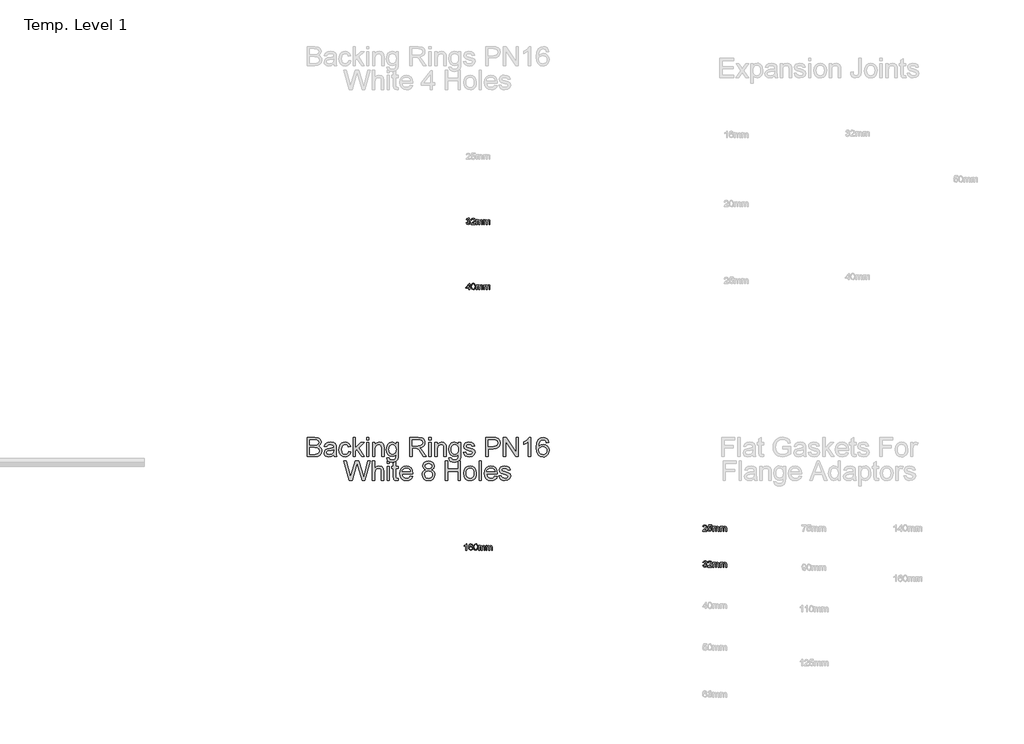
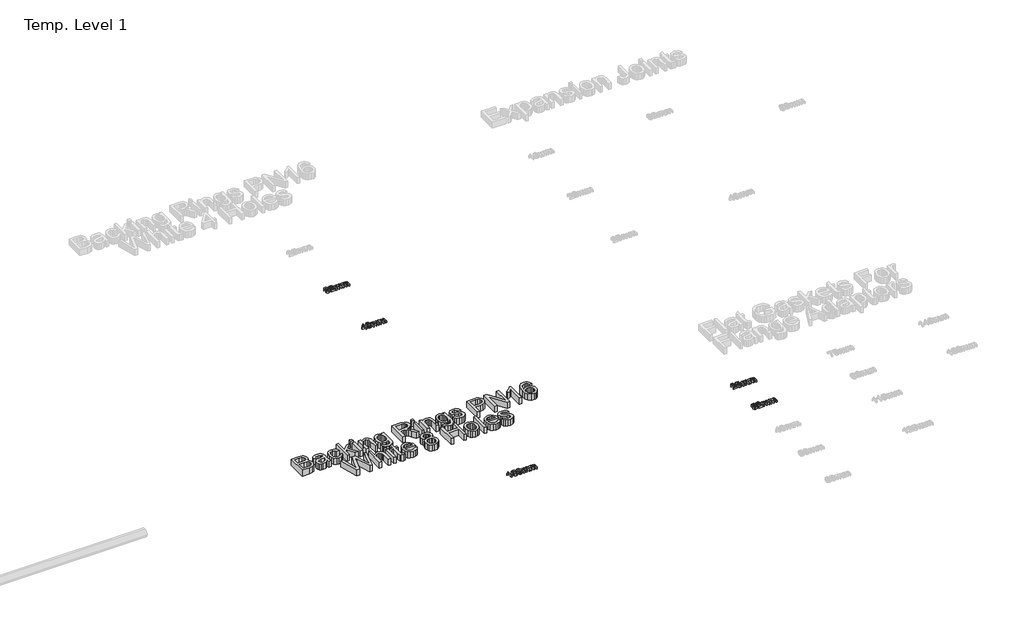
# One storey, part 9 of 62: 6 proxies.
"""IFC4 building model written with IfcOpenShell, lengths in millimetres."""

from ifc_helpers import new_model, si_unit, origin, origin_with_axes, place, context, project, spatial, polyline, outline, extrude, element, save

model = new_model("IFC4")

# Units and contexts
model_context = context("Model", 3, world=origin())
ifc_project = project(units=[si_unit("LENGTHUNIT", "METRE", prefix="MILLI")], contexts=[model_context])

# Site, building, storey
site = spatial("IfcSite", under=ifc_project)
building = spatial("IfcBuilding", under=site)
storey = spatial("IfcBuildingStorey", under=building, Name="Temp. Level 1", Elevation=0.0)

# Proxies
placement = place(None, origin())
element("IfcBuildingElementProxy", 1, Name="150mm Arial", ObjectType="150mm Arial", at=placement, inside=storey, context=model_context, shape_type="SweptSolid", body=[
    extrude(outline(polyline([(8496.1176365, -6979.0446709), (8496.1176365, -6831.3523632), (8552.4758096, -6831.3523632), (8580.0779731, -6835.6973151), (8589.3538144, -6841.2096348), (8596.37605, -6849.0566901), (8602.2714827, -6867.9509209), (8597.31355, -6885.2045266), (8582.3315788, -6898.2754401), (8592.7928168, -6903.7381805), (8600.5226846, -6912.0494786), (8605.2958216, -6922.6594545), (8606.8868673, -6935.0182286), (8602.5419154, -6954.8679882), (8591.7786942, -6969.0026036), (8575.7149923, -6976.5026036), (8552.0431173, -6979.0446709), (8496.1176365, -6979.0446709)]), holes=[polyline([(8514.579175, -6960.5831324), (8552.4397519, -6960.5831324), (8566.141675, -6959.8619786), (8577.7342231, -6955.8415459), (8585.4145115, -6947.6384209), (8588.4253288, -6935.198517), (8584.891675, -6920.8475555), (8573.4433577, -6912.2838536), (8550.6368673, -6909.8139016), (8514.579175, -6909.8139016), (8514.579175, -6960.5831324)]), polyline([(8514.579175, -6891.3523632), (8548.2931173, -6891.3523632), (8567.9806173, -6889.7658247), (8579.8255692, -6882.932892), (8583.8099442, -6870.9076516), (8580.0960019, -6858.8643824), (8569.4589827, -6851.7429882), (8545.7330212, -6849.8139016), (8514.579175, -6849.8139016), (8514.579175, -6891.3523632)])]), origin_with_axes(), (0.0, 0.0, 1.0), 50.0),
    extrude(outline(polyline([(8699.1945596, -6965.198517), (8681.2919154, -6977.7105362), (8661.5142712, -6981.3523632), (8646.0860861, -6979.1618584), (8634.7053769, -6972.5903439), (8627.6876486, -6962.6113776), (8625.3484058, -6950.198517), (8628.8820596, -6935.5951516), (8638.1669154, -6924.9941901), (8651.0935981, -6918.9364978), (8667.0671558, -6916.1600555), (8699.0863865, -6909.8139016), (8699.1945596, -6905.7033247), (8697.923526, -6897.464142), (8694.110425, -6892.073517), (8685.5827808, -6888.0711132), (8673.7017712, -6886.7369786), (8655.0238865, -6890.2886612), (8646.1176365, -6902.8908247), (8627.6560981, -6900.5831324), (8635.6428769, -6882.5542862), (8651.7246077, -6871.9893824), (8676.0815788, -6868.2754401), (8698.4553769, -6871.5566901), (8711.0935981, -6879.7958728), (8716.7546558, -6892.3259209), (8717.6560981, -6908.479767), (8717.6560981, -6931.448517), (8718.5935981, -6963.5218343), (8722.2714827, -6979.0446709), (8703.8099442, -6979.0446709), (8699.1945596, -6965.198517)]), holes=[polyline([(8699.1945596, -6928.2754401), (8669.4109058, -6933.9364978), (8653.5274923, -6936.9292862), (8646.3339827, -6941.7970747), (8643.8099442, -6948.9004401), (8649.3087423, -6958.8884209), (8665.4445596, -6962.8908247), (8684.1224442, -6958.4737574), (8696.1657135, -6947.7826516), (8699.0863865, -6933.5038055), (8699.1945596, -6928.2754401)])]), origin_with_axes(), (0.0, 0.0, 1.0), 50.0),
    extrude(outline(polyline([(8812.2714827, -6939.8139016), (8830.7330212, -6942.1215939), (8825.5857856, -6958.5413656), (8815.9133096, -6970.9497189), (8802.62605, -6978.7517021), (8786.6344635, -6981.3523632), (8766.9965428, -6977.7240579), (8751.6404731, -6966.839142), (8741.7291149, -6949.17538), (8738.4253288, -6925.2105362), (8744.0683577, -6894.5434689), (8751.1897519, -6883.0455723), (8761.2678769, -6874.8379401), (8773.3246678, -6869.9160651), (8786.3820596, -6868.2754401), (8801.9815188, -6870.5290459), (8814.4529731, -6877.2898632), (8823.399788, -6888.1973151), (8828.4253288, -6902.8908247), (8809.9637904, -6905.198517), (8801.4000885, -6891.370392), (8786.5262904, -6886.7369786), (8774.5957014, -6889.0176276), (8765.12605, -6895.8595747), (8758.946663, -6907.6324112), (8756.8868673, -6924.7057286), (8758.9015909, -6942.0089137), (8764.9457615, -6953.8223151), (8774.2441389, -6960.6236973), (8786.0214827, -6962.8908247), (8795.5812784, -6961.4755603), (8803.4193192, -6957.229767), (8809.1209418, -6950.0452718), (8812.2714827, -6939.8139016)])), origin_with_axes(), (0.0, 0.0, 1.0), 50.0),
    extrude(outline(polyline([(8846.8868673, -6979.0446709), (8846.8868673, -6831.3523632), (8865.3484058, -6831.3523632), (8865.3484058, -6910.7153439), (8906.7426365, -6870.5831324), (8932.2714827, -6870.5831324), (8890.3724442, -6911.2201516), (8934.579175, -6979.0446709), (8913.016675, -6979.0446709), (8877.1392712, -6924.0566901), (8865.3484058, -6935.4869786), (8865.3484058, -6979.0446709), (8846.8868673, -6979.0446709)])), origin_with_axes(), (0.0, 0.0, 1.0), 50.0),
    extrude(outline(polyline([(8950.7330212, -6979.0446709), (8950.7330212, -6870.5831324), (8969.1945596, -6870.5831324), (8969.1945596, -6979.0446709), (8950.7330212, -6979.0446709)])), origin_with_axes(), (0.0, 0.0, 1.0), 50.0),
    extrude(outline(polyline([(8950.7330212, -6849.8139016), (8950.7330212, -6831.3523632), (8969.1945596, -6831.3523632), (8969.1945596, -6849.8139016), (8950.7330212, -6849.8139016)])), origin_with_axes(), (0.0, 0.0, 1.0), 50.0),
    extrude(outline(polyline([(8996.8868673, -6979.0446709), (8996.8868673, -6870.5831324), (9015.3484058, -6870.5831324), (9015.3484058, -6885.7273632), (9029.4649923, -6872.6384209), (9048.7378288, -6868.2754401), (9066.1717231, -6871.7910651), (9078.0707615, -6881.0218343), (9083.6056173, -6894.5975555), (9084.579175, -6912.4461132), (9084.579175, -6979.0446709), (9066.1176365, -6979.0446709), (9066.1176365, -6914.9340939), (9063.9902327, -6898.5999593), (9056.4722038, -6889.964142), (9043.797925, -6886.7369786), (9032.9851245, -6888.5488776), (9023.7678769, -6893.9845747), (9017.4532736, -6904.4863776), (9015.3484058, -6921.4965939), (9015.3484058, -6979.0446709), (8996.8868673, -6979.0446709)])), origin_with_axes(), (0.0, 0.0, 1.0), 50.0),
    extrude(outline(polyline([(9105.3484058, -6988.2754401), (9123.8099442, -6990.5831324), (9129.7955212, -7000.3187093), (9147.7161942, -7004.4292862), (9166.610425, -6999.7778439), (9175.6248481, -6986.7249593), (9176.8868673, -6965.198517), (9163.8880692, -6975.5831324), (9148.0407135, -6979.0446709), (9129.0067591, -6975.0152237), (9114.81355, -6962.9268824), (9105.9839226, -6945.2045266), (9103.0407135, -6924.2730362), (9108.3231654, -6895.6612574), (9114.7865067, -6884.0461733), (9123.6116269, -6875.4148632), (9134.4965428, -6870.0602959), (9147.1392712, -6868.2754401), (9163.6086221, -6872.3139016), (9176.8868673, -6884.4292862), (9176.8868673, -6870.5831324), (9195.3484058, -6870.5831324), (9195.3484058, -6964.2249593), (9194.0863865, -6985.8460531), (9190.3003288, -7000.0843343), (9183.7783938, -7009.5269425), (9174.3087423, -7016.761017), (9162.0987063, -7021.3583728), (9147.3556173, -7022.8908247), (9130.1786341, -7020.7318704), (9116.6524923, -7014.2550074), (9107.9761101, -7003.4422069), (9105.3484058, -6988.2754401)]), holes=[polyline([(9121.5022519, -6923.011017), (9123.4719034, -6939.9446108), (9129.3808577, -6951.5867382), (9138.2645716, -6958.3340338), (9149.1585019, -6960.5831324), (9159.9713024, -6958.3475555), (9168.9000885, -6951.6408247), (9174.8901726, -6940.1474353), (9176.8868673, -6923.5518824), (9174.8315788, -6907.5467742), (9168.6657135, -6896.0218343), (9159.6062183, -6889.0581925), (9148.8700404, -6886.7369786), (9138.3276726, -6889.0221348), (9129.4890308, -6895.8776036), (9123.4989466, -6907.2312694), (9121.5022519, -6923.011017)])]), origin_with_axes(), (0.0, 0.0, 1.0), 50.0),
    extrude(outline(polyline([(9283.0407135, -6979.0446709), (9283.0407135, -6831.3523632), (9346.6825404, -6831.3523632), (9376.2318192, -6835.3367382), (9385.3273721, -6840.8535651), (9392.3856654, -6849.4352959), (9396.915413, -6860.0768223), (9398.4253288, -6871.7730362), (9395.9238264, -6886.3223151), (9388.4193192, -6898.3836132), (9375.6864466, -6907.2267622), (9357.4998481, -6912.1215939), (9367.9926365, -6920.0182286), (9382.9565788, -6939.0206324), (9407.5839827, -6979.0446709), (9386.1296558, -6979.0446709), (9366.9109058, -6948.4316901), (9353.0286942, -6928.167267), (9343.2750885, -6918.5939497), (9334.4950404, -6915.0783247), (9323.7859058, -6914.4292862), (9301.5022519, -6914.4292862), (9301.5022519, -6979.0446709), (9283.0407135, -6979.0446709)]), holes=[polyline([(9301.5022519, -6895.9677478), (9342.8243673, -6895.9677478), (9363.9000885, -6893.3535651), (9375.8712423, -6884.9881805), (9379.9637904, -6872.4581324), (9378.0121678, -6863.4527237), (9372.1573, -6856.1961132), (9362.0836822, -6851.4094545), (9347.4758096, -6849.8139016), (9301.5022519, -6849.8139016), (9301.5022519, -6895.9677478)])]), origin_with_axes(), (0.0, 0.0, 1.0), 50.0),
    extrude(outline(polyline([(9428.4253288, -6979.0446709), (9428.4253288, -6870.5831324), (9446.8868673, -6870.5831324), (9446.8868673, -6979.0446709), (9428.4253288, -6979.0446709)])), origin_with_axes(), (0.0, 0.0, 1.0), 50.0),
    extrude(outline(polyline([(9428.4253288, -6849.8139016), (9428.4253288, -6831.3523632), (9446.8868673, -6831.3523632), (9446.8868673, -6849.8139016), (9428.4253288, -6849.8139016)])), origin_with_axes(), (0.0, 0.0, 1.0), 50.0),
    extrude(outline(polyline([(9474.579175, -6979.0446709), (9474.579175, -6870.5831324), (9493.0407135, -6870.5831324), (9493.0407135, -6885.7273632), (9507.1573, -6872.6384209), (9526.4301365, -6868.2754401), (9543.8640308, -6871.7910651), (9555.7630692, -6881.0218343), (9561.297925, -6894.5975555), (9562.2714827, -6912.4461132), (9562.2714827, -6979.0446709), (9543.8099442, -6979.0446709), (9543.8099442, -6914.9340939), (9541.6825404, -6898.5999593), (9534.1645115, -6889.964142), (9521.4902327, -6886.7369786), (9510.6774322, -6888.5488776), (9501.4601846, -6893.9845747), (9495.1455813, -6904.4863776), (9493.0407135, -6921.4965939), (9493.0407135, -6979.0446709), (9474.579175, -6979.0446709)])), origin_with_axes(), (0.0, 0.0, 1.0), 50.0),
    extrude(outline(polyline([(9583.0407135, -6988.2754401), (9601.5022519, -6990.5831324), (9607.4878288, -7000.3187093), (9625.4085019, -7004.4292862), (9644.3027327, -6999.7778439), (9653.3171558, -6986.7249593), (9654.579175, -6965.198517), (9641.5803769, -6975.5831324), (9625.7330212, -6979.0446709), (9606.6990668, -6975.0152237), (9592.5058577, -6962.9268824), (9583.6762303, -6945.2045266), (9580.7330212, -6924.2730362), (9586.0154731, -6895.6612574), (9592.4788144, -6884.0461733), (9601.3039346, -6875.4148632), (9612.1888505, -6870.0602959), (9624.8315788, -6868.2754401), (9641.3009298, -6872.3139016), (9654.579175, -6884.4292862), (9654.579175, -6870.5831324), (9673.0407135, -6870.5831324), (9673.0407135, -6964.2249593), (9671.7786942, -6985.8460531), (9667.9926365, -7000.0843343), (9661.4707014, -7009.5269425), (9652.00105, -7016.761017), (9639.7910139, -7021.3583728), (9625.047925, -7022.8908247), (9607.8709418, -7020.7318704), (9594.3448, -7014.2550074), (9585.6684178, -7003.4422069), (9583.0407135, -6988.2754401)]), holes=[polyline([(9599.1945596, -6923.011017), (9601.1642111, -6939.9446108), (9607.0731654, -6951.5867382), (9615.9568793, -6958.3340338), (9626.8508096, -6960.5831324), (9637.6636101, -6958.3475555), (9646.5923962, -6951.6408247), (9652.5824803, -6940.1474353), (9654.579175, -6923.5518824), (9652.5238865, -6907.5467742), (9646.3580212, -6896.0218343), (9637.298526, -6889.0581925), (9626.5623481, -6886.7369786), (9616.0199803, -6889.0221348), (9607.1813385, -6895.8776036), (9601.1912543, -6907.2312694), (9599.1945596, -6923.011017)])]), origin_with_axes(), (0.0, 0.0, 1.0), 50.0),
    extrude(outline(polyline([(9693.8099442, -6946.7369786), (9712.2714827, -6944.4292862), (9715.1831413, -6952.3259209), (9720.8171558, -6958.1312093), (9740.3964827, -6962.8908247), (9759.2185981, -6958.5278439), (9765.3484058, -6948.2874593), (9759.1825404, -6939.9941901), (9740.1801365, -6934.729767), (9712.3796558, -6925.6973151), (9700.2462423, -6915.1504401), (9696.1176365, -6900.2586132), (9699.4349442, -6886.5026036), (9708.485425, -6875.9917862), (9720.2222038, -6870.5290459), (9736.1056173, -6868.2754401), (9758.5695596, -6871.8992382), (9772.8484058, -6881.7069305), (9779.1945596, -6898.2754401), (9760.7330212, -6900.5831324), (9753.7919154, -6890.3968343), (9737.547925, -6886.7369786), (9719.8796558, -6890.2345747), (9714.579175, -6898.3836132), (9716.7786942, -6903.7562093), (9723.6657135, -6907.8307286), (9739.5671558, -6911.761017), (9766.6645115, -6920.4509209), (9779.2486462, -6930.2946709), (9783.8099442, -6946.3403439), (9778.4553769, -6964.0086132), (9763.0046558, -6976.8271228), (9740.1440788, -6981.3523632), (9721.5292952, -6979.1708728), (9707.9445596, -6972.6264016), (9698.87605, -6961.7910651), (9693.8099442, -6946.7369786)])), origin_with_axes(), (0.0, 0.0, 1.0), 50.0),
    extrude(outline(polyline([(9864.579175, -6979.0446709), (9864.579175, -6831.3523632), (9919.3147519, -6831.3523632), (9941.3820596, -6832.7586132), (9959.3207615, -6839.6636612), (9970.9493673, -6853.9425074), (9975.3484058, -6874.0807286), (9972.3781534, -6891.4875795), (9963.4673962, -6905.9917862), (9946.8042351, -6915.7814497), (9920.5767712, -6919.0446709), (9883.0407135, -6919.0446709), (9883.0407135, -6979.0446709), (9864.579175, -6979.0446709)]), holes=[polyline([(9883.0407135, -6900.5831324), (9921.6585019, -6900.5831324), (9938.0286942, -6898.8884209), (9948.8460019, -6893.8042862), (9954.876651, -6885.6462334), (9956.8868673, -6874.729767), (9952.1452808, -6859.4413055), (9939.6873481, -6851.0759209), (9921.2258096, -6849.8139016), (9883.0407135, -6849.8139016), (9883.0407135, -6900.5831324)])]), origin_with_axes(), (0.0, 0.0, 1.0), 50.0),
    extrude(outline(polyline([(10000.7330212, -6979.0446709), (10000.7330212, -6831.3523632), (10020.4926365, -6831.3523632), (10097.6560981, -6948.3595747), (10097.6560981, -6831.3523632), (10116.1176365, -6831.3523632), (10116.1176365, -6979.0446709), (10096.3580212, -6979.0446709), (10019.1945596, -6862.0014016), (10019.1945596, -6979.0446709), (10000.7330212, -6979.0446709)])), origin_with_axes(), (0.0, 0.0, 1.0), 50.0),
    extrude(outline(polyline([(10210.7330212, -6979.0446709), (10192.2714827, -6979.0446709), (10192.2714827, -6863.948517), (10174.7835019, -6876.4064497), (10155.3484058, -6885.7273632), (10155.3484058, -6868.2754401), (10182.4097038, -6851.0038055), (10198.8339827, -6831.3523632), (10210.7330212, -6831.3523632), (10210.7330212, -6979.0446709)])), origin_with_axes(), (0.0, 0.0, 1.0), 50.0),
    extrude(outline(polyline([(10349.1945596, -6870.5831324), (10330.7330212, -6872.8908247), (10323.7378288, -6857.4941901), (10315.3634298, -6851.7339737), (10305.2402327, -6849.8139016), (10288.5815788, -6854.2850555), (10275.9794154, -6871.0699112), (10272.1527928, -6884.8214137), (10270.7330212, -6903.9725555), (10287.0130692, -6889.2429882), (10307.1873481, -6884.4292862), (10324.2426365, -6887.7195507), (10338.5575404, -6897.5903439), (10348.266074, -6912.6714737), (10351.5022519, -6931.5927478), (10349.9788144, -6944.8123992), (10345.4085019, -6957.0675074), (10338.1699202, -6967.4611372), (10328.641675, -6975.0963536), (10317.2564587, -6979.7883608), (10304.4469635, -6981.3523632), (10283.5019514, -6977.2057286), (10266.8207615, -6964.7658247), (10255.9088024, -6942.8066901), (10252.2714827, -6910.1023632), (10256.3099442, -6873.3325314), (10268.4253288, -6848.1913055), (10284.9667952, -6835.5620987), (10306.3940788, -6831.3523632), (10322.5929971, -6833.9575314), (10335.5647519, -6841.7730362), (10344.6512904, -6854.1858968), (10349.1945596, -6870.5831324)]), holes=[polyline([(10270.7330212, -6931.3042862), (10275.0058577, -6947.2958728), (10286.3640308, -6958.9064497), (10303.0046558, -6962.8908247), (10315.1876486, -6960.8265218), (10324.7654731, -6954.6336132), (10330.9719034, -6944.8980362), (10333.0407135, -6932.2057286), (10330.9989466, -6920.0227358), (10324.8736462, -6910.7333728), (10315.133562, -6904.8514617), (10302.2474442, -6902.8908247), (10290.0824803, -6904.8514617), (10279.9097038, -6910.7333728), (10273.0271918, -6919.7973752), (10270.7330212, -6931.3042862)])]), origin_with_axes(), (0.0, 0.0, 1.0), 50.0),
    extrude(outline(polyline([(8817.9325404, -7161.3523632), (8777.6560981, -7013.6600555), (8796.6945596, -7013.6600555), (8820.0599442, -7110.7273632), (8827.2714827, -7140.6913055), (8834.9878288, -7114.1889016), (8864.266675, -7013.6600555), (8891.7065788, -7013.6600555), (8912.9806173, -7086.5326516), (8928.8099442, -7140.6913055), (8935.8051365, -7111.5927478), (8959.3868673, -7013.6600555), (8978.4253288, -7013.6600555), (8938.1128288, -7161.3523632), (8918.3892712, -7161.3523632), (8882.9806173, -7047.4100555), (8878.0407135, -7031.5086132), (8872.4878288, -7050.6552478), (8840.2161942, -7161.3523632), (8817.9325404, -7161.3523632)])), origin_with_axes(), (0.0, 0.0, 1.0), 50.0),
    extrude(outline(polyline([(8994.579175, -7161.3523632), (8994.579175, -7013.6600555), (9013.0407135, -7013.6600555), (9013.0407135, -7067.9629401), (9027.4367471, -7054.9280843), (9045.1681173, -7050.5831324), (9065.9012904, -7055.3247189), (9078.485425, -7068.4316901), (9082.2714827, -7092.698517), (9082.2714827, -7161.3523632), (9063.8099442, -7161.3523632), (9063.8099442, -7094.6095747), (9062.3405933, -7083.0530843), (9057.9325404, -7075.1384209), (9050.829175, -7070.5681084), (9041.2738865, -7069.0446709), (9026.1476846, -7073.1552478), (9016.0515308, -7084.2970747), (9013.0407135, -7103.7321709), (9013.0407135, -7161.3523632), (8994.579175, -7161.3523632)])), origin_with_axes(), (0.0, 0.0, 1.0), 50.0),
    extrude(outline(polyline([(9107.6560981, -7032.1215939), (9107.6560981, -7013.6600555), (9126.1176365, -7013.6600555), (9126.1176365, -7032.1215939), (9107.6560981, -7032.1215939)])), origin_with_axes(), (0.0, 0.0, 1.0), 50.0),
    extrude(outline(polyline([(9107.6560981, -7161.3523632), (9107.6560981, -7052.8908247), (9126.1176365, -7052.8908247), (9126.1176365, -7161.3523632), (9107.6560981, -7161.3523632)])), origin_with_axes(), (0.0, 0.0, 1.0), 50.0),
    extrude(outline(polyline([(9193.0407135, -7145.9557286), (9195.3484058, -7161.8932286), (9181.5383096, -7163.6600555), (9166.0695596, -7160.5951516), (9158.3532135, -7152.5542862), (9156.1176365, -7131.604767), (9156.1176365, -7071.3523632), (9142.2714827, -7071.3523632), (9142.2714827, -7052.8908247), (9156.1176365, -7052.8908247), (9156.1176365, -7026.5326516), (9174.579175, -7015.6792862), (9174.579175, -7052.8908247), (9193.0407135, -7052.8908247), (9193.0407135, -7071.3523632), (9174.579175, -7071.3523632), (9174.579175, -7131.0639016), (9175.5527327, -7140.5831324), (9178.7077808, -7143.9545266), (9184.9998481, -7145.198517), (9193.0407135, -7145.9557286)])), origin_with_axes(), (0.0, 0.0, 1.0), 50.0),
    extrude(outline(polyline([(9287.4397519, -7129.0446709), (9305.5407135, -7131.3523632), (9299.0187784, -7144.9911853), (9288.6116269, -7155.1864978), (9274.5536341, -7161.5416661), (9257.079175, -7163.6600555), (9235.4175163, -7160.0047069), (9218.7498481, -7149.0386612), (9208.1218433, -7131.4740579), (9204.579175, -7108.0230362), (9208.157901, -7083.7832526), (9218.8940788, -7065.6552478), (9235.3363865, -7054.3511612), (9256.0335019, -7050.5831324), (9276.0860861, -7054.3421468), (9292.1092231, -7065.6191901), (9302.6155332, -7083.7111372), (9306.1176365, -7107.9148632), (9306.0094635, -7112.8908247), (9223.0407135, -7112.8908247), (9226.2363264, -7126.7099353), (9233.6597038, -7136.8691901), (9244.3733457, -7143.1161853), (9257.4397519, -7145.198517), (9275.5407135, -7141.3403439), (9287.4397519, -7129.0446709)]), holes=[polyline([(9223.0407135, -7094.4292862), (9287.6560981, -7094.4292862), (9285.1591029, -7084.6756805), (9280.2642712, -7077.698517), (9269.50105, -7071.2081324), (9255.9613865, -7069.0446709), (9243.5169755, -7070.7709329), (9233.2270115, -7075.9497189), (9226.0740668, -7084.0221348), (9223.0407135, -7094.4292862)])]), origin_with_axes(), (0.0, 0.0, 1.0), 50.0),
    extrude(outline(polyline([(9404.5551365, -7080.0062093), (9387.7342231, -7068.5398632), (9382.2714827, -7050.6913055), (9385.2462423, -7036.2592141), (9394.1705212, -7024.3331324), (9408.0437183, -7016.3283247), (9425.8652327, -7013.6600555), (9443.7949202, -7016.3914257), (9457.8484058, -7024.5855362), (9466.9349442, -7036.7009209), (9469.9637904, -7051.1961132), (9464.5731654, -7068.5939497), (9448.2210019, -7080.0062093), (9459.5836822, -7085.8610771), (9467.8544154, -7094.4833728), (9472.8979851, -7105.4584329), (9474.579175, -7118.3715939), (9471.2438385, -7136.0218343), (9461.2378288, -7150.6071709), (9445.7871077, -7160.3968343), (9426.1176365, -7163.6600555), (9406.4481654, -7160.3833127), (9390.9974442, -7150.5530843), (9380.9914346, -7135.8280242), (9377.6560981, -7117.8667862), (9379.4048962, -7104.4533247), (9384.6512904, -7093.4196709), (9393.1248481, -7085.1444305), (9404.5551365, -7080.0062093)]), holes=[polyline([(9400.7330212, -7051.2321709), (9402.3691389, -7059.2910651), (9407.2774923, -7065.7273632), (9415.3138505, -7069.9461132), (9426.3339827, -7071.3523632), (9437.0972038, -7069.9551276), (9445.0118673, -7065.7634209), (9449.8796558, -7059.5434689), (9451.5022519, -7052.0614978), (9449.8255692, -7044.2955723), (9444.7955212, -7037.8727959), (9436.7726846, -7033.5593944), (9426.1176365, -7032.1215939), (9415.3949803, -7033.5278439), (9407.3856654, -7037.7465939), (9402.3961822, -7043.9304882), (9400.7330212, -7051.2321709)]), polyline([(9396.1176365, -7117.2177478), (9399.2005692, -7131.1179882), (9410.1080212, -7141.5206324), (9426.2618673, -7145.198517), (9438.8279731, -7143.2649233), (9448.2570596, -7137.464142), (9454.1524923, -7128.6795867), (9456.1176365, -7117.7946709), (9454.0893913, -7106.7249593), (9448.0046558, -7097.7465939), (9438.3592231, -7091.7970747), (9425.6488865, -7089.8139016), (9413.258562, -7091.7700314), (9403.9241269, -7097.6384209), (9398.0692591, -7106.4455122), (9396.1176365, -7117.2177478)])]), origin_with_axes(), (0.0, 0.0, 1.0), 50.0),
    extrude(outline(polyline([(9555.3484058, -7161.3523632), (9555.3484058, -7013.6600555), (9573.8099442, -7013.6600555), (9573.8099442, -7073.6600555), (9652.2714827, -7073.6600555), (9652.2714827, -7013.6600555), (9670.7330212, -7013.6600555), (9670.7330212, -7161.3523632), (9652.2714827, -7161.3523632), (9652.2714827, -7092.1215939), (9573.8099442, -7092.1215939), (9573.8099442, -7161.3523632), (9555.3484058, -7161.3523632)])), origin_with_axes(), (0.0, 0.0, 1.0), 50.0),
    extrude(outline(polyline([(9696.1176365, -7107.1215939), (9700.111026, -7080.9707526), (9712.0911942, -7062.5903439), (9726.8928769, -7053.5849353), (9744.6152327, -7050.5831324), (9764.0097639, -7054.238481), (9779.50105, -7065.2045266), (9789.6557976, -7082.6158848), (9793.0407135, -7105.6071709), (9791.5443192, -7124.2580122), (9787.0551365, -7138.4557286), (9779.7038745, -7149.0882406), (9769.6212423, -7157.0434689), (9757.6455813, -7162.0059088), (9744.6152327, -7163.6600555), (9724.9863264, -7160.0182286), (9709.5130692, -7149.0927478), (9699.4664947, -7131.3163055), (9696.1176365, -7107.1215939)]), holes=[polyline([(9714.579175, -7107.0855362), (9716.7155933, -7123.7937694), (9723.1248481, -7135.6973151), (9732.7702808, -7142.8232165), (9744.6152327, -7145.198517), (9756.4060981, -7142.8096949), (9766.0335019, -7135.6432286), (9772.4427567, -7123.5819305), (9774.579175, -7106.5086132), (9772.4292351, -7090.2871588), (9765.9794154, -7078.5458728), (9756.3384899, -7071.4199713), (9744.6152327, -7069.0446709), (9732.7702808, -7071.4109569), (9723.1248481, -7078.5098151), (9716.7155933, -7090.3863175), (9714.579175, -7107.0855362)])]), origin_with_axes(), (0.0, 0.0, 1.0), 50.0),
    extrude(outline(polyline([(9813.8099442, -7161.3523632), (9813.8099442, -7013.6600555), (9832.2714827, -7013.6600555), (9832.2714827, -7161.3523632), (9813.8099442, -7161.3523632)])), origin_with_axes(), (0.0, 0.0, 1.0), 50.0),
    extrude(outline(polyline([(9935.9012904, -7129.0446709), (9954.0022519, -7131.3523632), (9947.4803168, -7144.9911853), (9937.0731654, -7155.1864978), (9923.0151726, -7161.5416661), (9905.5407135, -7163.6600555), (9883.8790548, -7160.0047069), (9867.2113865, -7149.0386612), (9856.5833817, -7131.4740579), (9853.0407135, -7108.0230362), (9856.6194394, -7083.7832526), (9867.3556173, -7065.6552478), (9883.797925, -7054.3511612), (9904.4950404, -7050.5831324), (9924.5476245, -7054.3421468), (9940.5707615, -7065.6191901), (9951.0770716, -7083.7111372), (9954.579175, -7107.9148632), (9954.4710019, -7112.8908247), (9871.5022519, -7112.8908247), (9874.6978649, -7126.7099353), (9882.1212423, -7136.8691901), (9892.8348841, -7143.1161853), (9905.9012904, -7145.198517), (9924.0022519, -7141.3403439), (9935.9012904, -7129.0446709)]), holes=[polyline([(9871.5022519, -7094.4292862), (9936.1176365, -7094.4292862), (9933.6206413, -7084.6756805), (9928.7258096, -7077.698517), (9917.9625885, -7071.2081324), (9904.422925, -7069.0446709), (9891.9785139, -7070.7709329), (9881.68855, -7075.9497189), (9874.5356053, -7084.0221348), (9871.5022519, -7094.4292862)])]), origin_with_axes(), (0.0, 0.0, 1.0), 50.0),
    extrude(outline(polyline([(9966.1176365, -7129.0446709), (9984.579175, -7126.7369786), (9987.4908337, -7134.6336132), (9993.1248481, -7140.4389016), (10012.704175, -7145.198517), (10031.5262904, -7140.8355362), (10037.6560981, -7130.5951516), (10031.4902327, -7122.3018824), (10012.4878288, -7117.0374593), (9984.6873481, -7108.0050074), (9972.5539346, -7097.4581324), (9968.4253288, -7082.5663055), (9971.7426365, -7068.8102959), (9980.7931173, -7058.2994786), (9992.5298962, -7052.8367382), (10008.4133096, -7050.5831324), (10030.8772519, -7054.2069305), (10045.1560981, -7064.0146228), (10051.5022519, -7080.5831324), (10033.0407135, -7082.8908247), (10026.0996077, -7072.7045266), (10009.8556173, -7069.0446709), (9992.1873481, -7072.542267), (9986.8868673, -7080.6913055), (9989.0863865, -7086.0639016), (9995.9734058, -7090.1384209), (10011.8748481, -7094.0687093), (10038.9722038, -7102.7586132), (10051.5563385, -7112.6023632), (10056.1176365, -7128.6480362), (10050.7630692, -7146.3163055), (10035.3123481, -7159.1348151), (10012.4517712, -7163.6600555), (9993.8369875, -7161.4785651), (9980.2522519, -7154.9340939), (9971.1837423, -7144.0987574), (9966.1176365, -7129.0446709)])), origin_with_axes(), (0.0, 0.0, 1.0), 50.0),
])
element("IfcBuildingElementProxy", 2, Name="50mm Arial", ObjectType="50mm Arial", at=placement, inside=storey, context=model_context, shape_type="SweptSolid", body=[
    extrude(outline(polyline([(9715.3245939, -5184.6523349), (9721.4784401, -5183.8831042), (9724.8738727, -5190.3614695), (9731.2260362, -5192.3446426), (9738.7019977, -5189.6162772), (9741.4784401, -5182.8614695), (9738.7260362, -5176.4972868), (9731.7308439, -5173.979258), (9727.4159401, -5174.6523349), (9728.1010362, -5168.4984888), (9736.0697862, -5166.8037772), (9739.1707477, -5161.3710849), (9736.9231516, -5156.557383), (9731.1298824, -5154.6523349), (9725.2644977, -5156.5754118), (9722.2476708, -5162.3446426), (9716.0938247, -5161.5754118), (9721.1298824, -5151.9239695), (9730.9135362, -5148.4984888), (9738.3354112, -5150.1871907), (9743.5277189, -5154.8025753), (9745.3245939, -5161.010508), (9743.6178631, -5166.6835849), (9738.5697862, -5170.7581042), (9745.276517, -5174.9648349), (9747.6322862, -5182.9696426), (9742.9207477, -5193.979258), (9731.0096901, -5198.4984888), (9720.2164208, -5194.6403157), (9715.3245939, -5184.6523349)])), origin_with_axes(), (0.0, 0.0, 1.0), 15.0),
    extrude(outline(polyline([(9784.5553631, -5191.5754118), (9784.5553631, -5197.729258), (9752.2476708, -5197.729258), (9752.9087285, -5193.4864695), (9756.6467093, -5186.9540176), (9764.3510362, -5179.8206042), (9774.9760362, -5169.5682003), (9777.6322862, -5162.5970465), (9775.1262766, -5156.9540176), (9768.5818054, -5154.6523349), (9761.760892, -5156.8999311), (9759.1707477, -5163.1138734), (9753.0169016, -5162.3446426), (9757.7344497, -5152.0441618), (9768.714017, -5148.4984888), (9779.729642, -5152.4407965), (9783.7861324, -5162.2244503), (9782.6923824, -5168.0597868), (9779.0565651, -5174.0934407), (9770.2404593, -5182.5249311), (9763.1611324, -5188.4444022), (9760.3846901, -5191.5754118), (9784.5553631, -5191.5754118)])), origin_with_axes(), (0.0, 0.0, 1.0), 15.0),
    extrude(outline(polyline([(9792.2476708, -5197.729258), (9792.2476708, -5161.5754118), (9798.401517, -5161.5754118), (9798.401517, -5167.5249311), (9802.6322862, -5162.651133), (9808.6539208, -5160.8061811), (9814.8197862, -5162.6871907), (9818.2092093, -5167.9576234), (9823.010892, -5162.5940417), (9829.0745939, -5160.8061811), (9837.1214689, -5163.7809407), (9839.9399785, -5172.9456042), (9839.9399785, -5197.729258), (9833.7861324, -5197.729258), (9833.7861324, -5175.5898349), (9833.2152189, -5170.4516138), (9831.1479112, -5167.9215657), (9827.6322862, -5166.9600272), (9821.5806035, -5169.4239695), (9819.1707477, -5177.3206042), (9819.1707477, -5197.729258), (9813.0169016, -5197.729258), (9813.0169016, -5174.9047388), (9811.5926227, -5168.9432003), (9806.9231516, -5166.9600272), (9802.3678631, -5168.2821426), (9799.339017, -5172.1523349), (9798.401517, -5179.4960849), (9798.401517, -5197.729258), (9792.2476708, -5197.729258)])), origin_with_axes(), (0.0, 0.0, 1.0), 15.0),
    extrude(outline(polyline([(9849.1707477, -5197.729258), (9849.1707477, -5161.5754118), (9855.3245939, -5161.5754118), (9855.3245939, -5167.5249311), (9859.5553631, -5162.651133), (9865.5769977, -5160.8061811), (9871.7428631, -5162.6871907), (9875.1322862, -5167.9576234), (9879.9339689, -5162.5940417), (9885.9976708, -5160.8061811), (9894.0445458, -5163.7809407), (9896.8630554, -5172.9456042), (9896.8630554, -5197.729258), (9890.7092093, -5197.729258), (9890.7092093, -5175.5898349), (9890.1382958, -5170.4516138), (9888.0709881, -5167.9215657), (9884.5553631, -5166.9600272), (9878.5036804, -5169.4239695), (9876.0938247, -5177.3206042), (9876.0938247, -5197.729258), (9869.9399785, -5197.729258), (9869.9399785, -5174.9047388), (9868.5156997, -5168.9432003), (9863.8462285, -5166.9600272), (9859.2909401, -5168.2821426), (9856.2620939, -5172.1523349), (9855.3245939, -5179.4960849), (9855.3245939, -5197.729258), (9849.1707477, -5197.729258)])), origin_with_axes(), (0.0, 0.0, 1.0), 15.0),
])
element("IfcBuildingElementProxy", 3, Name="50mm Arial", ObjectType="50mm Arial", at=placement, inside=storey, context=model_context, shape_type="SweptSolid", body=[
    extrude(outline(polyline([(9735.3245939, -5697.729258), (9735.3245939, -5686.1907965), (9713.0169016, -5686.1907965), (9713.0169016, -5680.0369503), (9736.8630554, -5649.2677195), (9741.4784401, -5649.2677195), (9741.4784401, -5680.0369503), (9747.6322862, -5680.0369503), (9747.6322862, -5686.1907965), (9741.4784401, -5686.1907965), (9741.4784401, -5697.729258), (9735.3245939, -5697.729258)]), holes=[polyline([(9735.3245939, -5680.0369503), (9735.3245939, -5661.0225272), (9720.589017, -5680.0369503), (9735.3245939, -5680.0369503)])]), origin_with_axes(), (0.0, 0.0, 1.0), 15.0),
    extrude(outline(polyline([(9753.0169016, -5673.510508), (9754.8257958, -5659.3458445), (9760.198392, -5651.1787772), (9769.1707477, -5648.4984888), (9776.3582477, -5650.0850272), (9781.3221901, -5654.6583445), (9784.2068054, -5661.9419984), (9785.3245939, -5673.510508), (9783.5337285, -5687.6150753), (9778.1791612, -5695.8001715), (9769.1707477, -5698.4984888), (9757.9207477, -5693.8109888), (9754.2428631, -5685.4846667), (9753.0169016, -5673.510508)]), holes=[polyline([(9759.1707477, -5673.4984888), (9762.0553631, -5688.7809407), (9769.1707477, -5692.3446426), (9776.2861324, -5688.7689215), (9779.1707477, -5673.4984888), (9776.3822862, -5658.3903157), (9769.0986324, -5654.6523349), (9762.151517, -5657.9456042), (9759.1707477, -5673.4984888)])]), origin_with_axes(), (0.0, 0.0, 1.0), 15.0),
    extrude(outline(polyline([(9792.2476708, -5697.729258), (9792.2476708, -5661.5754118), (9798.401517, -5661.5754118), (9798.401517, -5667.5249311), (9802.6322862, -5662.651133), (9808.6539208, -5660.8061811), (9814.8197862, -5662.6871907), (9818.2092093, -5667.9576234), (9823.010892, -5662.5940417), (9829.0745939, -5660.8061811), (9837.1214689, -5663.7809407), (9839.9399785, -5672.9456042), (9839.9399785, -5697.729258), (9833.7861324, -5697.729258), (9833.7861324, -5675.5898349), (9833.2152189, -5670.4516138), (9831.1479112, -5667.9215657), (9827.6322862, -5666.9600272), (9821.5806035, -5669.4239695), (9819.1707477, -5677.3206042), (9819.1707477, -5697.729258), (9813.0169016, -5697.729258), (9813.0169016, -5674.9047388), (9811.5926227, -5668.9432003), (9806.9231516, -5666.9600272), (9802.3678631, -5668.2821426), (9799.339017, -5672.1523349), (9798.401517, -5679.4960849), (9798.401517, -5697.729258), (9792.2476708, -5697.729258)])), origin_with_axes(), (0.0, 0.0, 1.0), 15.0),
    extrude(outline(polyline([(9849.1707477, -5697.729258), (9849.1707477, -5661.5754118), (9855.3245939, -5661.5754118), (9855.3245939, -5667.5249311), (9859.5553631, -5662.651133), (9865.5769977, -5660.8061811), (9871.7428631, -5662.6871907), (9875.1322862, -5667.9576234), (9879.9339689, -5662.5940417), (9885.9976708, -5660.8061811), (9894.0445458, -5663.7809407), (9896.8630554, -5672.9456042), (9896.8630554, -5697.729258), (9890.7092093, -5697.729258), (9890.7092093, -5675.5898349), (9890.1382958, -5670.4516138), (9888.0709881, -5667.9215657), (9884.5553631, -5666.9600272), (9878.5036804, -5669.4239695), (9876.0938247, -5677.3206042), (9876.0938247, -5697.729258), (9869.9399785, -5697.729258), (9869.9399785, -5674.9047388), (9868.5156997, -5668.9432003), (9863.8462285, -5666.9600272), (9859.2909401, -5668.2821426), (9856.2620939, -5672.1523349), (9855.3245939, -5679.4960849), (9855.3245939, -5697.729258), (9849.1707477, -5697.729258)])), origin_with_axes(), (0.0, 0.0, 1.0), 15.0),
])
element("IfcBuildingElementProxy", 4, Name="50mm Arial", ObjectType="50mm Arial", at=placement, inside=storey, context=model_context, shape_type="SweptSolid", body=[
    extrude(outline(polyline([(9719.5553631, -7697.729258), (9713.401517, -7697.729258), (9713.401517, -7659.3638734), (9707.5721901, -7663.5165176), (9701.0938247, -7666.6234888), (9701.0938247, -7660.8061811), (9710.1142574, -7655.0489695), (9715.589017, -7648.4984888), (9719.5553631, -7648.4984888), (9719.5553631, -7697.729258)])), origin_with_axes(), (0.0, 0.0, 1.0), 15.0),
    extrude(outline(polyline([(9765.7092093, -7661.5754118), (9759.5553631, -7662.3446426), (9757.2236324, -7657.2124311), (9751.057767, -7654.6523349), (9745.5048824, -7656.1427195), (9741.3041612, -7661.7376715), (9739.5553631, -7672.7052195), (9744.9820458, -7667.7953638), (9751.7068054, -7666.1907965), (9762.1635362, -7670.5778157), (9766.4784401, -7681.9119503), (9764.4471901, -7690.4035368), (9758.8582477, -7696.4131522), (9750.7933439, -7698.4984888), (9738.2512766, -7692.9696426), (9734.6139569, -7685.6499311), (9733.401517, -7674.7484888), (9734.7476708, -7662.4918782), (9738.7861324, -7654.1114695), (9744.2999545, -7649.901734), (9751.4423824, -7648.4984888), (9761.1659401, -7651.9720465), (9765.7092093, -7661.5754118)]), holes=[polyline([(9739.5553631, -7681.8157965), (9740.979642, -7687.1463253), (9744.7656997, -7691.0165176), (9750.3125747, -7692.3446426), (9757.5661804, -7689.5922388), (9760.3245939, -7682.1162772), (9757.6022381, -7674.9588253), (9750.0601708, -7672.3446426), (9742.6142574, -7674.9588253), (9739.5553631, -7681.8157965)])]), origin_with_axes(), (0.0, 0.0, 1.0), 15.0),
    extrude(outline(polyline([(9771.8630554, -7673.510508), (9773.6719497, -7659.3458445), (9779.0445458, -7651.1787772), (9788.0169016, -7648.4984888), (9795.2044016, -7650.0850272), (9800.1683439, -7654.6583445), (9803.0529593, -7661.9419984), (9804.1707477, -7673.510508), (9802.3798824, -7687.6150753), (9797.0253151, -7695.8001715), (9788.0169016, -7698.4984888), (9776.7669016, -7693.8109888), (9773.089017, -7685.4846667), (9771.8630554, -7673.510508)]), holes=[polyline([(9778.0169016, -7673.4984888), (9780.901517, -7688.7809407), (9788.0169016, -7692.3446426), (9795.1322862, -7688.7689215), (9798.0169016, -7673.4984888), (9795.2284401, -7658.3903157), (9787.9447862, -7654.6523349), (9780.9976708, -7657.9456042), (9778.0169016, -7673.4984888)])]), origin_with_axes(), (0.0, 0.0, 1.0), 15.0),
    extrude(outline(polyline([(9811.0938247, -7697.729258), (9811.0938247, -7661.5754118), (9817.2476708, -7661.5754118), (9817.2476708, -7667.5249311), (9821.4784401, -7662.651133), (9827.5000747, -7660.8061811), (9833.6659401, -7662.6871907), (9837.0553631, -7667.9576234), (9841.8570458, -7662.5940417), (9847.9207477, -7660.8061811), (9855.9676227, -7663.7809407), (9858.7861324, -7672.9456042), (9858.7861324, -7697.729258), (9852.6322862, -7697.729258), (9852.6322862, -7675.5898349), (9852.0613727, -7670.4516138), (9849.9940651, -7667.9215657), (9846.4784401, -7666.9600272), (9840.4267574, -7669.4239695), (9838.0169016, -7677.3206042), (9838.0169016, -7697.729258), (9831.8630554, -7697.729258), (9831.8630554, -7674.9047388), (9830.4387766, -7668.9432003), (9825.7693054, -7666.9600272), (9821.214017, -7668.2821426), (9818.1851708, -7672.1523349), (9817.2476708, -7679.4960849), (9817.2476708, -7697.729258), (9811.0938247, -7697.729258)])), origin_with_axes(), (0.0, 0.0, 1.0), 15.0),
    extrude(outline(polyline([(9868.0169016, -7697.729258), (9868.0169016, -7661.5754118), (9874.1707477, -7661.5754118), (9874.1707477, -7667.5249311), (9878.401517, -7662.651133), (9884.4231516, -7660.8061811), (9890.589017, -7662.6871907), (9893.9784401, -7667.9576234), (9898.7801227, -7662.5940417), (9904.8438247, -7660.8061811), (9912.8906997, -7663.7809407), (9915.7092093, -7672.9456042), (9915.7092093, -7697.729258), (9909.5553631, -7697.729258), (9909.5553631, -7675.5898349), (9908.9844497, -7670.4516138), (9906.917142, -7667.9215657), (9903.401517, -7666.9600272), (9897.3498343, -7669.4239695), (9894.9399785, -7677.3206042), (9894.9399785, -7697.729258), (9888.7861324, -7697.729258), (9888.7861324, -7674.9047388), (9887.3618535, -7668.9432003), (9882.6923824, -7666.9600272), (9878.1370939, -7668.2821426), (9875.1082477, -7672.1523349), (9874.1707477, -7679.4960849), (9874.1707477, -7697.729258), (9868.0169016, -7697.729258)])), origin_with_axes(), (0.0, 0.0, 1.0), 15.0),
])
element("IfcBuildingElementProxy", 5, Name="50mm Arial", ObjectType="50mm Arial", at=placement, inside=storey, context=model_context, shape_type="SweptSolid", body=[
    extrude(outline(polyline([(11561.8630554, -7545.4089258), (11561.8630554, -7551.5627719), (11529.5553631, -7551.5627719), (11530.2164208, -7547.3199835), (11533.9544016, -7540.7875315), (11541.6587285, -7533.6541181), (11552.2837285, -7523.4017142), (11554.9399785, -7516.4305604), (11552.4339689, -7510.7875315), (11545.8894977, -7508.4858488), (11539.0685843, -7510.733445), (11536.4784401, -7516.9473873), (11530.3245939, -7516.1781565), (11535.042142, -7505.8776758), (11546.0217093, -7502.3320027), (11557.0373343, -7506.2743104), (11561.0938247, -7516.0579642), (11560.0000747, -7521.8933008), (11556.3642574, -7527.9269546), (11547.5481516, -7536.358445), (11540.4688247, -7542.2779161), (11537.6923824, -7545.4089258), (11561.8630554, -7545.4089258)])), origin_with_axes(), (0.0, 0.0, 1.0), 15.0),
    extrude(outline(polyline([(11568.0169016, -7538.4858488), (11574.1707477, -7537.7166181), (11577.2717093, -7544.0567623), (11583.7019977, -7546.1781565), (11591.4183439, -7543.2274354), (11594.1707477, -7535.3969065), (11591.5926227, -7528.0892142), (11583.7981516, -7525.4089258), (11578.3955074, -7526.4786373), (11574.9399785, -7529.2550796), (11568.7861324, -7528.4858488), (11574.1707477, -7503.1012335), (11598.0169016, -7503.1012335), (11598.0169016, -7509.2550796), (11579.1467093, -7509.2550796), (11576.5144977, -7522.8127719), (11585.5169016, -7519.2550796), (11596.0397381, -7523.6661373), (11600.3245939, -7535.0122911), (11596.4664208, -7546.4305604), (11590.9255554, -7550.8566421), (11583.6779593, -7552.3320027), (11572.8185843, -7548.5399354), (11568.0169016, -7538.4858488)])), origin_with_axes(), (0.0, 0.0, 1.0), 15.0),
    extrude(outline(polyline([(11607.2476708, -7551.5627719), (11607.2476708, -7515.4089258), (11613.401517, -7515.4089258), (11613.401517, -7521.358445), (11617.6322862, -7516.4846469), (11623.6539208, -7514.639695), (11629.8197862, -7516.5207046), (11633.2092093, -7521.7911373), (11638.010892, -7516.4275556), (11644.0745939, -7514.639695), (11652.1214689, -7517.6144546), (11654.9399785, -7526.7791181), (11654.9399785, -7551.5627719), (11648.7861324, -7551.5627719), (11648.7861324, -7529.4233488), (11648.2152189, -7524.2851277), (11646.1479112, -7521.7550796), (11642.6322862, -7520.7935411), (11636.5806035, -7523.2574835), (11634.1707477, -7531.1541181), (11634.1707477, -7551.5627719), (11628.0169016, -7551.5627719), (11628.0169016, -7528.7382527), (11626.5926227, -7522.7767142), (11621.9231516, -7520.7935411), (11617.3678631, -7522.1156565), (11614.339017, -7525.9858488), (11613.401517, -7533.3295988), (11613.401517, -7551.5627719), (11607.2476708, -7551.5627719)])), origin_with_axes(), (0.0, 0.0, 1.0), 15.0),
    extrude(outline(polyline([(11664.1707477, -7551.5627719), (11664.1707477, -7515.4089258), (11670.3245939, -7515.4089258), (11670.3245939, -7521.358445), (11674.5553631, -7516.4846469), (11680.5769977, -7514.639695), (11686.7428631, -7516.5207046), (11690.1322862, -7521.7911373), (11694.9339689, -7516.4275556), (11700.9976708, -7514.639695), (11709.0445458, -7517.6144546), (11711.8630554, -7526.7791181), (11711.8630554, -7551.5627719), (11705.7092093, -7551.5627719), (11705.7092093, -7529.4233488), (11705.1382958, -7524.2851277), (11703.0709881, -7521.7550796), (11699.5553631, -7520.7935411), (11693.5036804, -7523.2574835), (11691.0938247, -7531.1541181), (11691.0938247, -7551.5627719), (11684.9399785, -7551.5627719), (11684.9399785, -7528.7382527), (11683.5156997, -7522.7767142), (11678.8462285, -7520.7935411), (11674.2909401, -7522.1156565), (11671.2620939, -7525.9858488), (11670.3245939, -7533.3295988), (11670.3245939, -7551.5627719), (11664.1707477, -7551.5627719)])), origin_with_axes(), (0.0, 0.0, 1.0), 15.0),
])
element("IfcBuildingElementProxy", 6, Name="50mm Arial", ObjectType="50mm Arial", at=placement, inside=storey, context=model_context, shape_type="SweptSolid", body=[
    extrude(outline(polyline([(11530.3245939, -7814.6215939), (11536.4784401, -7813.8523632), (11539.8738727, -7820.3307286), (11546.2260362, -7822.3139016), (11553.7019977, -7819.5855362), (11556.4784401, -7812.8307286), (11553.7260362, -7806.4665459), (11546.7308439, -7803.948517), (11542.4159401, -7804.6215939), (11543.1010362, -7798.4677478), (11551.0697862, -7796.7730362), (11554.1707477, -7791.3403439), (11551.9231516, -7786.526642), (11546.1298824, -7784.6215939), (11540.2644977, -7786.5446709), (11537.2476708, -7792.3139016), (11531.0938247, -7791.5446709), (11536.1298824, -7781.8932286), (11545.9135362, -7778.4677478), (11553.3354112, -7780.1564497), (11558.5277189, -7784.7718343), (11560.3245939, -7790.979767), (11558.6178631, -7796.6528439), (11553.5697862, -7800.7273632), (11560.276517, -7804.9340939), (11562.6322862, -7812.9389016), (11557.9207477, -7823.948517), (11546.0096901, -7828.4677478), (11535.2164208, -7824.6095747), (11530.3245939, -7814.6215939)])), origin_with_axes(), (0.0, 0.0, 1.0), 15.0),
    extrude(outline(polyline([(11599.5553631, -7821.5446709), (11599.5553631, -7827.698517), (11567.2476708, -7827.698517), (11567.9087285, -7823.4557286), (11571.6467093, -7816.9232766), (11579.3510362, -7809.7898632), (11589.9760362, -7799.5374593), (11592.6322862, -7792.5663055), (11590.1262766, -7786.9232766), (11583.5818054, -7784.6215939), (11576.760892, -7786.8691901), (11574.1707477, -7793.0831324), (11568.0169016, -7792.3139016), (11572.7344497, -7782.0134209), (11583.714017, -7778.4677478), (11594.729642, -7782.4100555), (11598.7861324, -7792.1937093), (11597.6923824, -7798.0290459), (11594.0565651, -7804.0626997), (11585.2404593, -7812.4941901), (11578.1611324, -7818.4136612), (11575.3846901, -7821.5446709), (11599.5553631, -7821.5446709)])), origin_with_axes(), (0.0, 0.0, 1.0), 15.0),
    extrude(outline(polyline([(11607.2476708, -7827.698517), (11607.2476708, -7791.5446709), (11613.401517, -7791.5446709), (11613.401517, -7797.4941901), (11617.6322862, -7792.620392), (11623.6539208, -7790.7754401), (11629.8197862, -7792.6564497), (11633.2092093, -7797.9268824), (11638.010892, -7792.5633007), (11644.0745939, -7790.7754401), (11652.1214689, -7793.7501997), (11654.9399785, -7802.9148632), (11654.9399785, -7827.698517), (11648.7861324, -7827.698517), (11648.7861324, -7805.5590939), (11648.2152189, -7800.4208728), (11646.1479112, -7797.8908247), (11642.6322862, -7796.9292862), (11636.5806035, -7799.3932286), (11634.1707477, -7807.2898632), (11634.1707477, -7827.698517), (11628.0169016, -7827.698517), (11628.0169016, -7804.8739978), (11626.5926227, -7798.9124593), (11621.9231516, -7796.9292862), (11617.3678631, -7798.2514016), (11614.339017, -7802.1215939), (11613.401517, -7809.4653439), (11613.401517, -7827.698517), (11607.2476708, -7827.698517)])), origin_with_axes(), (0.0, 0.0, 1.0), 15.0),
    extrude(outline(polyline([(11664.1707477, -7827.698517), (11664.1707477, -7791.5446709), (11670.3245939, -7791.5446709), (11670.3245939, -7797.4941901), (11674.5553631, -7792.620392), (11680.5769977, -7790.7754401), (11686.7428631, -7792.6564497), (11690.1322862, -7797.9268824), (11694.9339689, -7792.5633007), (11700.9976708, -7790.7754401), (11709.0445458, -7793.7501997), (11711.8630554, -7802.9148632), (11711.8630554, -7827.698517), (11705.7092093, -7827.698517), (11705.7092093, -7805.5590939), (11705.1382958, -7800.4208728), (11703.0709881, -7797.8908247), (11699.5553631, -7796.9292862), (11693.5036804, -7799.3932286), (11691.0938247, -7807.2898632), (11691.0938247, -7827.698517), (11684.9399785, -7827.698517), (11684.9399785, -7804.8739978), (11683.5156997, -7798.9124593), (11678.8462285, -7796.9292862), (11674.2909401, -7798.2514016), (11671.2620939, -7802.1215939), (11670.3245939, -7809.4653439), (11670.3245939, -7827.698517), (11664.1707477, -7827.698517)])), origin_with_axes(), (0.0, 0.0, 1.0), 15.0),
])

save(model, "model.ifc")
